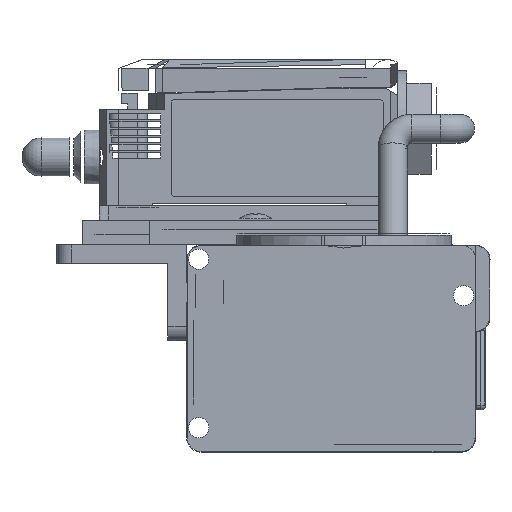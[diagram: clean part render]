
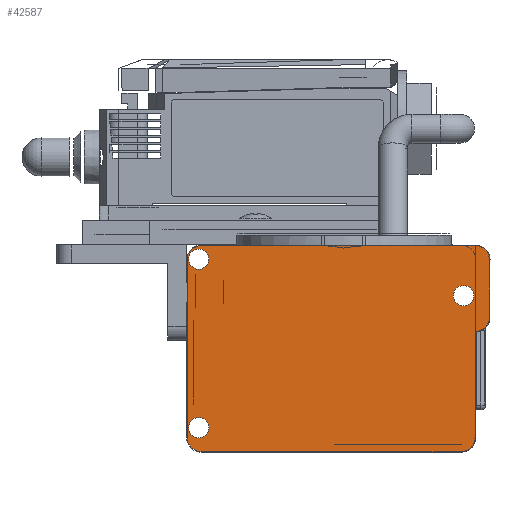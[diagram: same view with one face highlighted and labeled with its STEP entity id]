
A CAD part, front view. The second image highlights one B-rep face of the part: STEP entity #42587.
In plain terms, the highlighted planar face has unit normal (0, -1, 0).
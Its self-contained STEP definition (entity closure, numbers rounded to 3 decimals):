
#1200=FACE_BOUND('',#8598,.T.);
#1201=FACE_BOUND('',#8599,.T.);
#1202=FACE_BOUND('',#8600,.T.);
#3175=PLANE('',#60564);
#5728=FACE_OUTER_BOUND('',#8597,.T.);
#8597=EDGE_LOOP('',(#39224,#39225,#39226,#39227,#39228,#39229,#39230,#39231,
#39232,#39233));
#8598=EDGE_LOOP('',(#39234));
#8599=EDGE_LOOP('',(#39235));
#8600=EDGE_LOOP('',(#39236));
#9865=CIRCLE('',#60565,2.9);
#9866=CIRCLE('',#60566,2.9);
#9867=CIRCLE('',#60567,2.9);
#9868=CIRCLE('',#60568,2.9);
#9869=CIRCLE('',#60569,2.9);
#9870=CIRCLE('',#60570,2.1);
#9871=CIRCLE('',#60571,2.1);
#9872=CIRCLE('',#60572,2.1);
#15730=VERTEX_POINT('',#95699);
#15731=VERTEX_POINT('',#95700);
#15732=VERTEX_POINT('',#95702);
#15733=VERTEX_POINT('',#95704);
#15734=VERTEX_POINT('',#95706);
#15735=VERTEX_POINT('',#95708);
#15736=VERTEX_POINT('',#95710);
#15737=VERTEX_POINT('',#95712);
#15738=VERTEX_POINT('',#95714);
#15739=VERTEX_POINT('',#95716);
#15740=VERTEX_POINT('',#95719);
#15741=VERTEX_POINT('',#95721);
#15742=VERTEX_POINT('',#95723);
#24258=EDGE_CURVE('',#15730,#15731,#9865,.T.);
#24259=EDGE_CURVE('',#15731,#15732,#49596,.T.);
#24260=EDGE_CURVE('',#15732,#15733,#9866,.T.);
#24261=EDGE_CURVE('',#15733,#15734,#49597,.T.);
#24262=EDGE_CURVE('',#15734,#15735,#9867,.T.);
#24263=EDGE_CURVE('',#15735,#15736,#49598,.T.);
#24264=EDGE_CURVE('',#15736,#15737,#9868,.T.);
#24265=EDGE_CURVE('',#15737,#15738,#49599,.T.);
#24266=EDGE_CURVE('',#15738,#15739,#9869,.T.);
#24267=EDGE_CURVE('',#15739,#15730,#49600,.T.);
#24268=EDGE_CURVE('',#15740,#15740,#9870,.T.);
#24269=EDGE_CURVE('',#15741,#15741,#9871,.T.);
#24270=EDGE_CURVE('',#15742,#15742,#9872,.T.);
#39224=ORIENTED_EDGE('',*,*,#24258,.T.);
#39225=ORIENTED_EDGE('',*,*,#24259,.T.);
#39226=ORIENTED_EDGE('',*,*,#24260,.T.);
#39227=ORIENTED_EDGE('',*,*,#24261,.T.);
#39228=ORIENTED_EDGE('',*,*,#24262,.T.);
#39229=ORIENTED_EDGE('',*,*,#24263,.T.);
#39230=ORIENTED_EDGE('',*,*,#24264,.T.);
#39231=ORIENTED_EDGE('',*,*,#24265,.T.);
#39232=ORIENTED_EDGE('',*,*,#24266,.T.);
#39233=ORIENTED_EDGE('',*,*,#24267,.T.);
#39234=ORIENTED_EDGE('',*,*,#24268,.F.);
#39235=ORIENTED_EDGE('',*,*,#24269,.F.);
#39236=ORIENTED_EDGE('',*,*,#24270,.F.);
#42587=ADVANCED_FACE('',(#5728,#1200,#1201,#1202),#3175,.F.);
#49596=LINE('',#95703,#56641);
#49597=LINE('',#95707,#56642);
#49598=LINE('',#95711,#56643);
#49599=LINE('',#95715,#56644);
#49600=LINE('',#95718,#56645);
#56641=VECTOR('',#74887,12.);
#56642=VECTOR('',#74890,57.);
#56643=VECTOR('',#74893,37.);
#56644=VECTOR('',#74896,54.);
#56645=VECTOR('',#74899,22.102);
#60564=AXIS2_PLACEMENT_3D('',#95698,#74883,#74884);
#60565=AXIS2_PLACEMENT_3D('',#95701,#74885,#74886);
#60566=AXIS2_PLACEMENT_3D('',#95705,#74888,#74889);
#60567=AXIS2_PLACEMENT_3D('',#95709,#74891,#74892);
#60568=AXIS2_PLACEMENT_3D('',#95713,#74894,#74895);
#60569=AXIS2_PLACEMENT_3D('',#95717,#74897,#74898);
#60570=AXIS2_PLACEMENT_3D('',#95720,#74900,#74901);
#60571=AXIS2_PLACEMENT_3D('',#95722,#74902,#74903);
#60572=AXIS2_PLACEMENT_3D('',#95724,#74904,#74905);
#74883=DIRECTION('center_axis',(0.,1.,0.));
#74884=DIRECTION('ref_axis',(-1.,0.,0.));
#74885=DIRECTION('center_axis',(0.,-1.,0.));
#74886=DIRECTION('ref_axis',(0.707,0.,-0.707));
#74887=DIRECTION('',(0.,0.,1.));
#74888=DIRECTION('center_axis',(0.,-1.,0.));
#74889=DIRECTION('ref_axis',(0.707,0.,0.707));
#74890=DIRECTION('',(-1.,0.,0.));
#74891=DIRECTION('center_axis',(0.,-1.,0.));
#74892=DIRECTION('ref_axis',(-0.707,0.,0.707));
#74893=DIRECTION('',(0.,0.,-1.));
#74894=DIRECTION('center_axis',(0.,-1.,0.));
#74895=DIRECTION('ref_axis',(-0.707,0.,-0.707));
#74896=DIRECTION('',(1.,0.,0.));
#74897=DIRECTION('center_axis',(0.,-1.,0.));
#74898=DIRECTION('ref_axis',(0.707,0.,-0.707));
#74899=DIRECTION('',(0.,0.,1.));
#74900=DIRECTION('center_axis',(0.,-1.,0.));
#74901=DIRECTION('ref_axis',(-1.,0.,0.));
#74902=DIRECTION('center_axis',(0.,-1.,0.));
#74903=DIRECTION('ref_axis',(-1.,0.,0.));
#74904=DIRECTION('center_axis',(0.,-1.,0.));
#74905=DIRECTION('ref_axis',(-1.,0.,0.));
#95698=CARTESIAN_POINT('Origin',(-0.1,-52.,-12.002));
#95699=CARTESIAN_POINT('',(29.8,-52.,-8.4));
#95700=CARTESIAN_POINT('',(32.8,-52.,-5.502));
#95701=CARTESIAN_POINT('Origin',(29.9,-52.,-5.502));
#95702=CARTESIAN_POINT('',(32.8,-52.,6.498));
#95703=CARTESIAN_POINT('',(32.8,-52.,-10.252));
#95704=CARTESIAN_POINT('',(29.9,-52.,9.398));
#95705=CARTESIAN_POINT('Origin',(29.9,-52.,6.498));
#95706=CARTESIAN_POINT('',(-27.1,-52.,9.398));
#95707=CARTESIAN_POINT('',(-15.1,-52.,9.398));
#95708=CARTESIAN_POINT('',(-30.,-52.,6.498));
#95709=CARTESIAN_POINT('Origin',(-27.1,-52.,6.498));
#95710=CARTESIAN_POINT('',(-30.,-52.,-30.502));
#95711=CARTESIAN_POINT('',(-30.,-52.,-22.752));
#95712=CARTESIAN_POINT('',(-27.1,-52.,-33.402));
#95713=CARTESIAN_POINT('Origin',(-27.1,-52.,-30.502));
#95714=CARTESIAN_POINT('',(26.9,-52.,-33.402));
#95715=CARTESIAN_POINT('',(14.9,-52.,-33.402));
#95716=CARTESIAN_POINT('',(29.8,-52.,-30.502));
#95717=CARTESIAN_POINT('Origin',(26.9,-52.,-30.502));
#95718=CARTESIAN_POINT('',(29.8,-52.,-1.252));
#95719=CARTESIAN_POINT('',(-29.7,-52.,-28.402));
#95720=CARTESIAN_POINT('Origin',(-27.6,-52.,-28.402));
#95721=CARTESIAN_POINT('',(25.3,-52.,-1.002));
#95722=CARTESIAN_POINT('Origin',(27.4,-52.,-1.002));
#95723=CARTESIAN_POINT('',(-29.7,-52.,6.598));
#95724=CARTESIAN_POINT('Origin',(-27.6,-52.,6.598));
